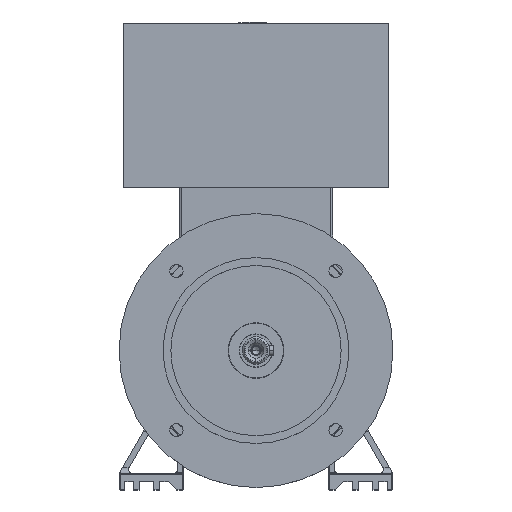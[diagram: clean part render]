
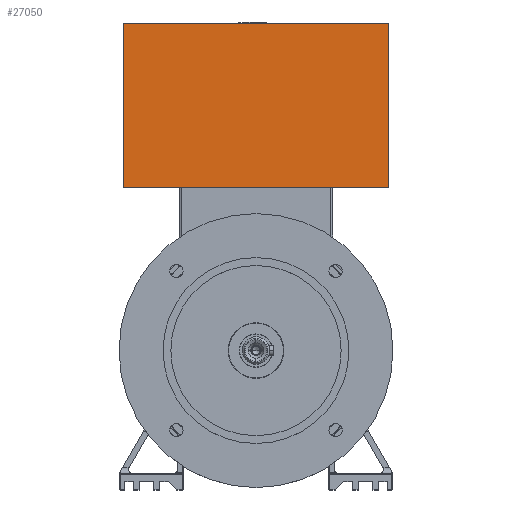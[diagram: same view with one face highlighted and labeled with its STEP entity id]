
A CAD part, top view. The second image highlights one B-rep face of the part: STEP entity #27050.
In plain terms, the highlighted planar face has unit normal (0, 0, 1).
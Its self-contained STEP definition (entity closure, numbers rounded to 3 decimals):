
#113 = CARTESIAN_POINT ( 'NONE',  ( -67.5, 167., 67.5 ) ) ;
#393 = VECTOR ( 'NONE', #1336, 1000. ) ;
#416 = EDGE_CURVE ( 'NONE', #23232, #22524, #4802, .T. ) ;
#711 = DIRECTION ( 'NONE',  ( 1., 0., 0. ) ) ;
#1336 = DIRECTION ( 'NONE',  ( 0., -1., 0. ) ) ;
#3478 = ORIENTED_EDGE ( 'NONE', *, *, #9167, .T. ) ;
#3808 = DIRECTION ( 'NONE',  ( 1., 0., 0. ) ) ;
#4059 = CARTESIAN_POINT ( 'NONE',  ( -67.5, -107.419, 67.5 ) ) ;
#4802 = LINE ( 'NONE', #27529, #30127 ) ;
#5617 = EDGE_CURVE ( 'NONE', #22524, #23914, #12485, .T. ) ;
#9167 = EDGE_CURVE ( 'NONE', #28205, #23914, #21216, .T. ) ;
#9490 = ORIENTED_EDGE ( 'NONE', *, *, #5617, .F. ) ;
#10302 = CARTESIAN_POINT ( 'NONE',  ( -67.5, 83.5, 67.5 ) ) ;
#12000 = AXIS2_PLACEMENT_3D ( 'NONE', #20470, #22820, #3808 ) ;
#12448 = VECTOR ( 'NONE', #18334, 1000. ) ;
#12485 = LINE ( 'NONE', #29718, #393 ) ;
#12603 = CARTESIAN_POINT ( 'NONE',  ( 67.5, 167., 67.5 ) ) ;
#14641 = EDGE_CURVE ( 'NONE', #23232, #28205, #18668, .T. ) ;
#18092 = PLANE ( 'NONE',  #12000 ) ;
#18334 = DIRECTION ( 'NONE',  ( 0., -1., 0. ) ) ;
#18373 = DIRECTION ( 'NONE',  ( 1., 0., 0. ) ) ;
#18668 = LINE ( 'NONE', #4059, #12448 ) ;
#20470 = CARTESIAN_POINT ( 'NONE',  ( -67.5, -107.419, 67.5 ) ) ;
#20582 = ORIENTED_EDGE ( 'NONE', *, *, #14641, .T. ) ;
#21216 = LINE ( 'NONE', #10302, #27459 ) ;
#22329 = CARTESIAN_POINT ( 'NONE',  ( -67.5, 83.5, 67.5 ) ) ;
#22524 = VERTEX_POINT ( 'NONE', #12603 ) ;
#22820 = DIRECTION ( 'NONE',  ( 0., 0., 1. ) ) ;
#23232 = VERTEX_POINT ( 'NONE', #113 ) ;
#23914 = VERTEX_POINT ( 'NONE', #25304 ) ;
#25304 = CARTESIAN_POINT ( 'NONE',  ( 67.5, 83.5, 67.5 ) ) ;
#25699 = ORIENTED_EDGE ( 'NONE', *, *, #416, .F. ) ;
#27050 = ADVANCED_FACE ( 'NONE', ( #27311 ), #18092, .T. ) ;
#27311 = FACE_OUTER_BOUND ( 'NONE', #27896, .T. ) ;
#27459 = VECTOR ( 'NONE', #711, 1000. ) ;
#27529 = CARTESIAN_POINT ( 'NONE',  ( -67.5, 167., 67.5 ) ) ;
#27896 = EDGE_LOOP ( 'NONE', ( #20582, #3478, #9490, #25699 ) ) ;
#28205 = VERTEX_POINT ( 'NONE', #22329 ) ;
#29718 = CARTESIAN_POINT ( 'NONE',  ( 67.5, -107.419, 67.5 ) ) ;
#30127 = VECTOR ( 'NONE', #18373, 1000. ) ;
